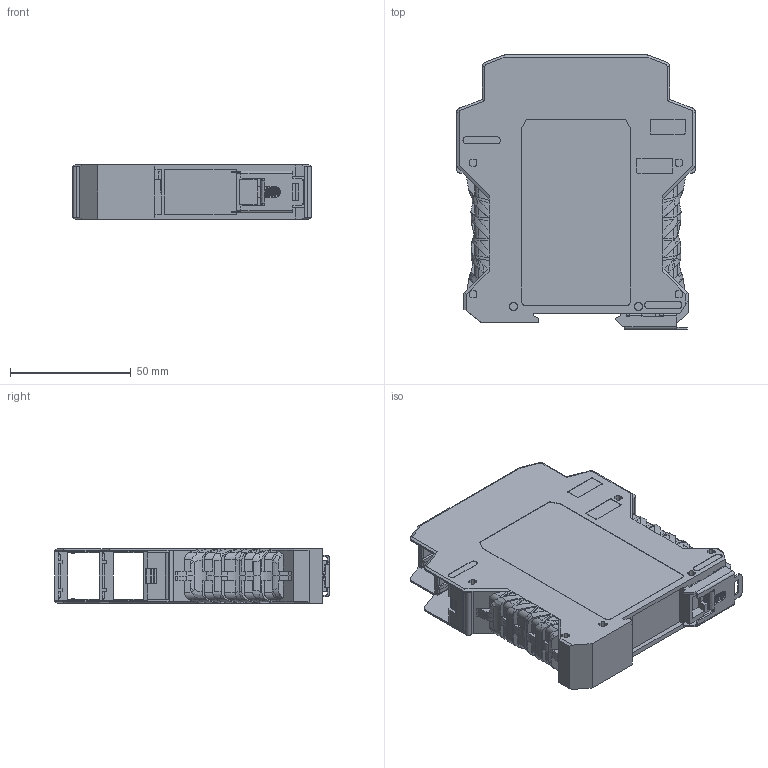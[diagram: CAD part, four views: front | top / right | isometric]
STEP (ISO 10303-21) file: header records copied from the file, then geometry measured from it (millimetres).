
FILE_DESCRIPTION(('FreeCAD Model'),'2;1');
FILE_NAME('Open CASCADE Shape Model','2023-04-20T10:14:30',('Author'),( ''),'Open CASCADE STEP processor 7.6','FreeCAD','Unknown');
FILE_SCHEMA(('AUTOMOTIVE_DESIGN { 1 0 10303 214 1 1 1 1 }'));
Products named in the file (1): CPME-DIN22,5
Bounding box: 99 x 113.9 x 22.5 mm (x, y, z)
Surface area: 62325.7 mm2
Topology: 11 solids, 12 shells, 2464 faces, 6916 edges, 4500 vertices
Faces by surface type: plane 2050, cylinder 308, bspline 58, cone 28, torus 20
Entity records: 188705 total; most frequent: CARTESIAN_POINT 52821, DIRECTION 24366, LINE 18028, VECTOR 18028, ORIENTED_EDGE 13814, PCURVE 13814, DEFINITIONAL_REPRESENTATION 13814, EDGE_CURVE 6907
